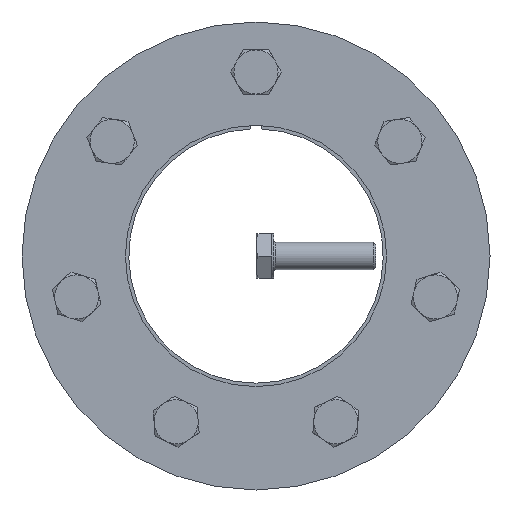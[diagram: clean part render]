
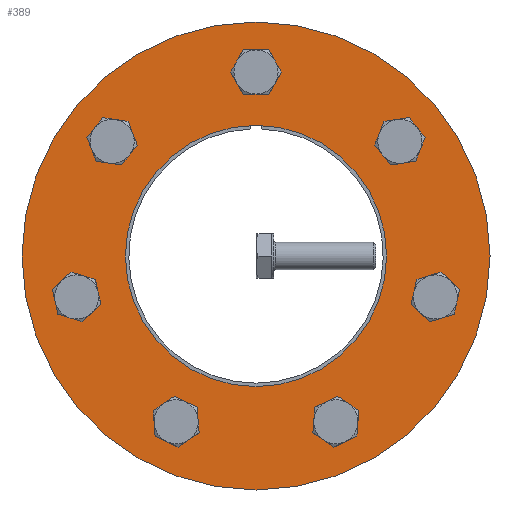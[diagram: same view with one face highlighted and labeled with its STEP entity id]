
A CAD part, front view. The second image highlights one B-rep face of the part: STEP entity #389.
In plain terms, the highlighted planar face has unit normal (0, -1, 0).
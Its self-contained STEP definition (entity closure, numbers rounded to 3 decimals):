
#389 = ADVANCED_FACE( '', ( #686, #687, #688, #689, #690, #691, #692, #693, #694 ), #695, .F. );
#686 = FACE_BOUND( '', #884, .T. );
#687 = FACE_BOUND( '', #885, .T. );
#688 = FACE_BOUND( '', #886, .T. );
#689 = FACE_OUTER_BOUND( '', #887, .T. );
#690 = FACE_BOUND( '', #888, .T. );
#691 = FACE_BOUND( '', #889, .T. );
#692 = FACE_BOUND( '', #890, .T. );
#693 = FACE_BOUND( '', #891, .T. );
#694 = FACE_BOUND( '', #892, .T. );
#695 = PLANE( '', #893 );
#884 = EDGE_LOOP( '', ( #1225 ) );
#885 = EDGE_LOOP( '', ( #1226 ) );
#886 = EDGE_LOOP( '', ( #1227 ) );
#887 = EDGE_LOOP( '', ( #1228 ) );
#888 = EDGE_LOOP( '', ( #1229 ) );
#889 = EDGE_LOOP( '', ( #1230 ) );
#890 = EDGE_LOOP( '', ( #1231 ) );
#891 = EDGE_LOOP( '', ( #1232 ) );
#892 = EDGE_LOOP( '', ( #1233 ) );
#893 = AXIS2_PLACEMENT_3D( '', #1234, #1235, #1236 );
#1225 = ORIENTED_EDGE( '', *, *, #1478, .T. );
#1226 = ORIENTED_EDGE( '', *, *, #1484, .T. );
#1227 = ORIENTED_EDGE( '', *, *, #1490, .T. );
#1228 = ORIENTED_EDGE( '', *, *, #1434, .T. );
#1229 = ORIENTED_EDGE( '', *, *, #1501, .F. );
#1230 = ORIENTED_EDGE( '', *, *, #1493, .T. );
#1231 = ORIENTED_EDGE( '', *, *, #1487, .T. );
#1232 = ORIENTED_EDGE( '', *, *, #1481, .T. );
#1233 = ORIENTED_EDGE( '', *, *, #1476, .T. );
#1234 = CARTESIAN_POINT( '', ( 0., -16.25, 69. ) );
#1235 = DIRECTION( '', ( 0., 1., 0. ) );
#1236 = DIRECTION( '', ( 0., 0., 1. ) );
#1434 = EDGE_CURVE( '', #1581, #1581, #1582, .T. );
#1476 = EDGE_CURVE( '', #1657, #1657, #1658, .T. );
#1478 = EDGE_CURVE( '', #1661, #1661, #1662, .T. );
#1481 = EDGE_CURVE( '', #1667, #1667, #1668, .T. );
#1484 = EDGE_CURVE( '', #1673, #1673, #1674, .T. );
#1487 = EDGE_CURVE( '', #1679, #1679, #1680, .T. );
#1490 = EDGE_CURVE( '', #1685, #1685, #1686, .T. );
#1493 = EDGE_CURVE( '', #1691, #1691, #1692, .T. );
#1501 = EDGE_CURVE( '', #1703, #1703, #1704, .T. );
#1581 = VERTEX_POINT( '', #1716 );
#1582 = CIRCLE( '', #1717, 69. );
#1657 = VERTEX_POINT( '', #1826 );
#1658 = CIRCLE( '', #1827, 4. );
#1661 = VERTEX_POINT( '', #1830 );
#1662 = CIRCLE( '', #1831, 4. );
#1667 = VERTEX_POINT( '', #1836 );
#1668 = CIRCLE( '', #1837, 4. );
#1673 = VERTEX_POINT( '', #1842 );
#1674 = CIRCLE( '', #1843, 4. );
#1679 = VERTEX_POINT( '', #1848 );
#1680 = CIRCLE( '', #1849, 4. );
#1685 = VERTEX_POINT( '', #1854 );
#1686 = CIRCLE( '', #1855, 4. );
#1691 = VERTEX_POINT( '', #1860 );
#1692 = CIRCLE( '', #1861, 4. );
#1703 = VERTEX_POINT( '', #1872 );
#1704 = CIRCLE( '', #1873, 38.5 );
#1716 = CARTESIAN_POINT( '', ( 0., -16.25, -69. ) );
#1717 = AXIS2_PLACEMENT_3D( '', #1890, #1891, #1892 );
#1826 = CARTESIAN_POINT( '', ( -39.92, -16.25, 36.952 ) );
#1827 = AXIS2_PLACEMENT_3D( '', #1960, #1961, #1962 );
#1830 = CARTESIAN_POINT( '', ( -53.78, -16.25, -8.172 ) );
#1831 = AXIS2_PLACEMENT_3D( '', #1966, #1967, #1968 );
#1836 = CARTESIAN_POINT( '', ( -27.142, -16.25, -47.142 ) );
#1837 = AXIS2_PLACEMENT_3D( '', #1975, #1976, #1977 );
#1842 = CARTESIAN_POINT( '', ( 19.934, -16.25, -50.613 ) );
#1843 = AXIS2_PLACEMENT_3D( '', #1984, #1985, #1986 );
#1848 = CARTESIAN_POINT( '', ( 52., -16.25, -15.971 ) );
#1849 = AXIS2_PLACEMENT_3D( '', #1993, #1994, #1995 );
#1854 = CARTESIAN_POINT( '', ( 44.908, -16.25, 30.697 ) );
#1855 = AXIS2_PLACEMENT_3D( '', #2002, #2003, #2004 );
#1860 = CARTESIAN_POINT( '', ( 4., -16.25, 54.25 ) );
#1861 = AXIS2_PLACEMENT_3D( '', #2011, #2012, #2013 );
#1872 = CARTESIAN_POINT( '', ( 0., -16.25, -38.5 ) );
#1873 = AXIS2_PLACEMENT_3D( '', #2035, #2036, #2037 );
#1890 = CARTESIAN_POINT( '', ( 0., -16.25, 0. ) );
#1891 = DIRECTION( '', ( 0., -1., 0. ) );
#1892 = DIRECTION( '', ( 0., 0., -1. ) );
#1960 = CARTESIAN_POINT( '', ( -42.414, -16.25, 33.824 ) );
#1961 = DIRECTION( '', ( 0., 1., 0. ) );
#1962 = DIRECTION( '', ( 0.623, 0., 0.782 ) );
#1966 = CARTESIAN_POINT( '', ( -52.89, -16.25, -12.072 ) );
#1967 = DIRECTION( '', ( 0., 1., 0. ) );
#1968 = DIRECTION( '', ( -0.223, 0., 0.975 ) );
#1975 = CARTESIAN_POINT( '', ( -23.538, -16.25, -48.878 ) );
#1976 = DIRECTION( '', ( 0., 1., 0. ) );
#1977 = DIRECTION( '', ( -0.901, 0., 0.434 ) );
#1984 = CARTESIAN_POINT( '', ( 23.538, -16.25, -48.878 ) );
#1985 = DIRECTION( '', ( 0., 1., 0. ) );
#1986 = DIRECTION( '', ( -0.901, 0., -0.434 ) );
#1993 = CARTESIAN_POINT( '', ( 52.89, -16.25, -12.072 ) );
#1994 = DIRECTION( '', ( 0., 1., 0. ) );
#1995 = DIRECTION( '', ( -0.223, 0., -0.975 ) );
#2002 = CARTESIAN_POINT( '', ( 42.414, -16.25, 33.824 ) );
#2003 = DIRECTION( '', ( 0., 1., 0. ) );
#2004 = DIRECTION( '', ( 0.623, 0., -0.782 ) );
#2011 = CARTESIAN_POINT( '', ( 0., -16.25, 54.25 ) );
#2012 = DIRECTION( '', ( 0., 1., 0. ) );
#2013 = DIRECTION( '', ( 1., 0., 0. ) );
#2035 = CARTESIAN_POINT( '', ( 0., -16.25, 0. ) );
#2036 = DIRECTION( '', ( 0., -1., 0. ) );
#2037 = DIRECTION( '', ( 0., 0., -1. ) );
